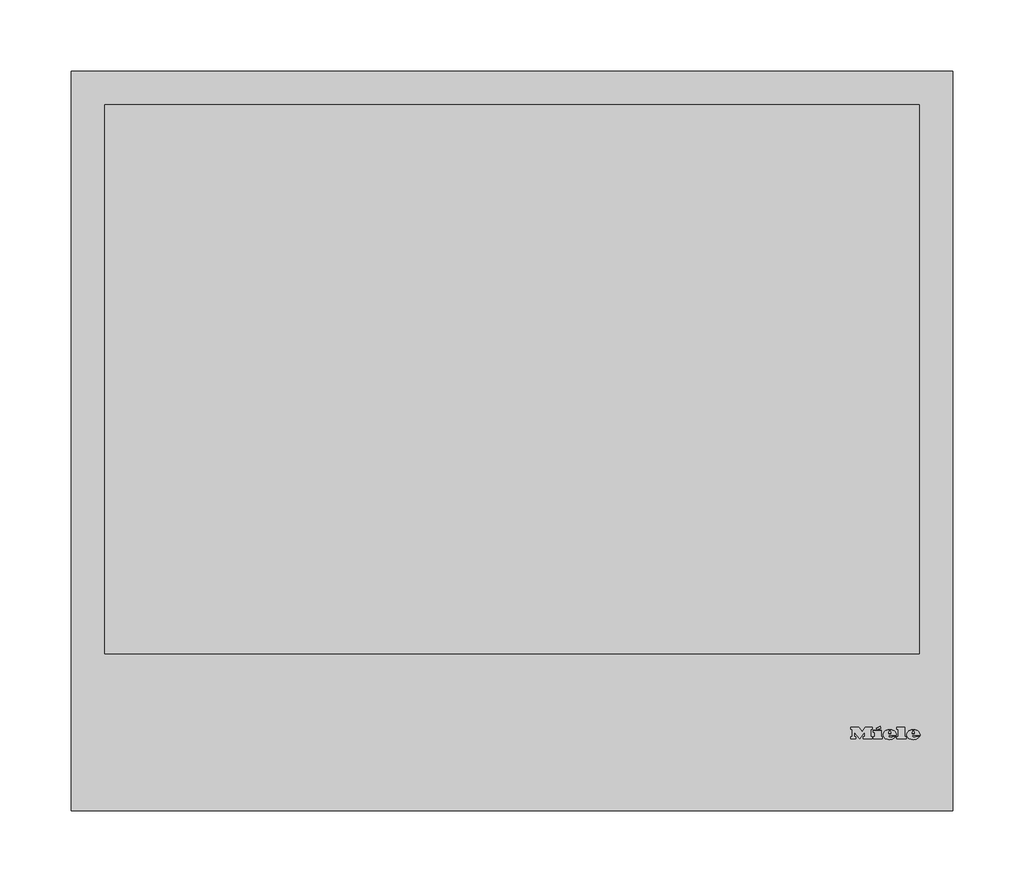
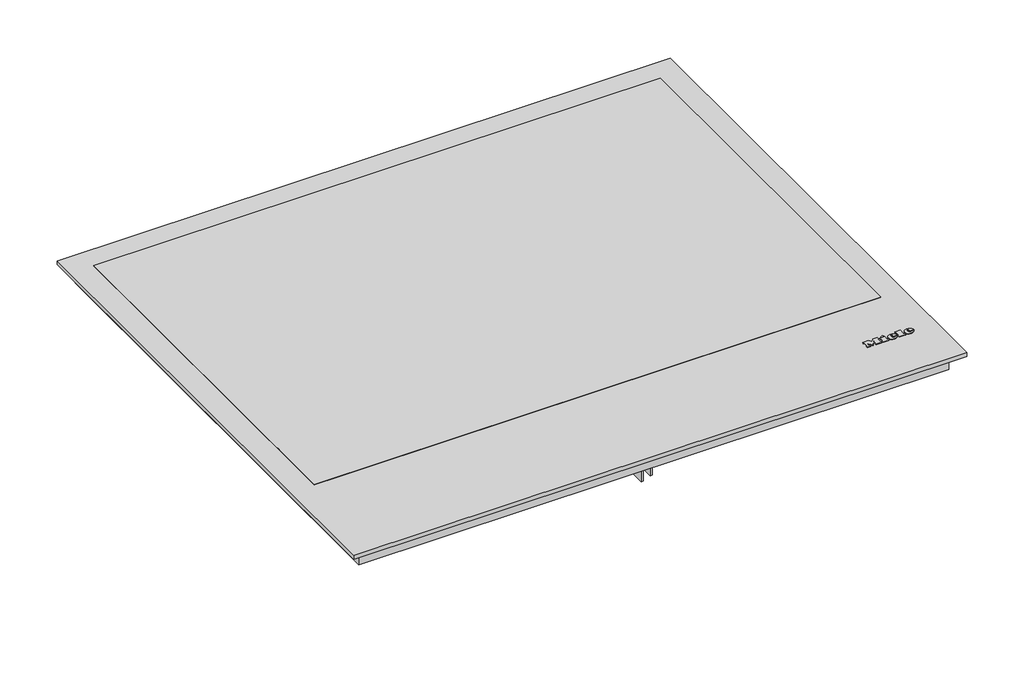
# Not in any storey: 1 proxy.
"""IFC4 building model written with IfcOpenShell, lengths in millimetres."""

import ifcopenshell
import ifcopenshell.guid

model = None  # the IFC model being written
_history = None  # IfcOwnerHistory: only IFC2X3 demands one
_inside = {}  # id of a spatial element -> (the spatial element, [elements in it])
_under = {}  # id of a project, library or spatial element -> (it, [spatial elements below it])
_declared = {}  # id of a project -> (the project, [libraries it declares])
_typed = {}  # id of a type object -> (the type object, [elements of that type])
_made_of = {}  # id of a material, layer set ... -> (it, [elements and type objects made of it])


def new_model(schema):
    """Start an empty IFC model of exactly this schema.

    Asked for "IFC4X3", IfcOpenShell would pick the latest addendum, in which some entities
    have other attributes; the version numbers below select the first issue.
    IFC2X3 requires an IfcOwnerHistory on every rooted entity: one is made here for all.
    """
    global model, _history
    if schema == "IFC4X3":
        model = ifcopenshell.file(schema_version=(4, 3, 0, 0))
    else:
        model = ifcopenshell.file(schema=schema)
    _inside.clear()
    _under.clear()
    _declared.clear()
    _typed.clear()
    _made_of.clear()
    _history = None
    if model.schema == "IFC2X3":
        org = make("IfcOrganization", Name="unknown")
        user = make(
            "IfcPersonAndOrganization",
            ThePerson=make("IfcPerson", FamilyName="unknown"),
            TheOrganization=org,
        )
        app = make(
            "IfcApplication",
            ApplicationDeveloper=org,
            Version="unknown",
            ApplicationFullName="unknown",
            ApplicationIdentifier="unknown",
        )
        _history = make(
            "IfcOwnerHistory",
            OwningUser=user,
            OwningApplication=app,
            ChangeAction="ADDED",
            CreationDate=0,
        )
    return model


def make(cls, **values):
    """One entity of the class cls with the attributes given. An attribute that is None is left unset."""
    return model.create_entity(
        cls, **{name: value for name, value in values.items() if value is not None}
    )


def rooted(cls, **values):
    """An entity with a GlobalId (a new one), such as an element, a storey or a relation."""
    return make(cls, GlobalId=ifcopenshell.guid.new(), OwnerHistory=_history, **values)


def si_unit(unit_type, name, prefix=None):
    """IfcSIUnit, for example si_unit("LENGTHUNIT", "METRE", prefix="MILLI")."""
    return make("IfcSIUnit", UnitType=unit_type, Prefix=prefix, Name=name)


def assignment(units):
    """IfcUnitAssignment: the units of a project."""
    return None if units is None else make("IfcUnitAssignment", Units=units)


def point(xyz):
    """IfcCartesianPoint."""
    return None if xyz is None else make("IfcCartesianPoint", Coordinates=xyz)


def direction(xyz):
    """IfcDirection."""
    return None if xyz is None else make("IfcDirection", DirectionRatios=xyz)


def frame(location, z_axis=None, x_axis=None):
    """IfcAxis2Placement3D, a coordinate frame: its origin and axes. An axis left out is left unset."""
    return make(
        "IfcAxis2Placement3D",
        Location=point(location),
        Axis=direction(z_axis),
        RefDirection=direction(x_axis),
    )


def frame_2d(location, x_axis=None):
    """IfcAxis2Placement2D, a coordinate frame in the plane: its origin and x axis."""
    return make(
        "IfcAxis2Placement2D", Location=point(location), RefDirection=direction(x_axis)
    )


def origin():
    """The frame at (0, 0, 0) with its axes left unset."""
    return frame((0.0, 0.0, 0.0))


def origin_with_axes():
    """The frame at (0, 0, 0) with the z axis (0, 0, 1) and the x axis (1, 0, 0) written out."""
    return frame((0.0, 0.0, 0.0), z_axis=(0.0, 0.0, 1.0), x_axis=(1.0, 0.0, 0.0))


def place(relative_to, where):
    """IfcLocalPlacement: puts the frame where relative to a parent placement (None: the world)."""
    return make(
        "IfcLocalPlacement", PlacementRelTo=relative_to, RelativePlacement=where
    )


def context(
    kind, dimensions, precision=None, world=None, true_north=None, identifier=None
):
    """IfcGeometricRepresentationContext, for example the 3D "Model" context."""
    return make(
        "IfcGeometricRepresentationContext",
        ContextIdentifier=identifier,
        ContextType=kind,
        CoordinateSpaceDimension=dimensions,
        Precision=precision,
        WorldCoordinateSystem=world,
        TrueNorth=true_north,
    )


def project(units=None, contexts=None):
    """IfcProject with its units and contexts."""
    return rooted(
        "IfcProject",
        Name="project",
        RepresentationContexts=contexts,
        UnitsInContext=assignment(units),
    )


def spatial(cls, under=None, at=None, **own):
    """A site, building, storey or space (cls), placed at a placement, below another one or the project."""
    s = rooted(cls, ObjectPlacement=at, **own)
    if under is not None:
        _under.setdefault(under.id(), (under, []))[1].append(s)
    return s


def polyline(points):
    """IfcPolyline through the points."""
    return make("IfcPolyline", Points=[point(p) for p in points])


def circle_curve(where, radius):
    """IfcCircle in the frame where."""
    return make("IfcCircle", Position=where, Radius=radius)


def ellipse_curve(where, semi_axis1, semi_axis2):
    """IfcEllipse in the frame where."""
    return make(
        "IfcEllipse", Position=where, SemiAxis1=semi_axis1, SemiAxis2=semi_axis2
    )


def trimmed(basis, trim1, trim2, sense, master):
    """IfcTrimmedCurve: the piece of a basis curve between two trims."""
    return make(
        "IfcTrimmedCurve",
        BasisCurve=basis,
        Trim1=trim1,
        Trim2=trim2,
        SenseAgreement=sense,
        MasterRepresentation=master,
    )


def segment(curve, same_sense, transition):
    """IfcCompositeCurveSegment."""
    return make(
        "IfcCompositeCurveSegment",
        Transition=transition,
        SameSense=same_sense,
        ParentCurve=curve,
    )


def composite_curve(segments, self_intersect=None):
    """IfcCompositeCurve: segments joined end to end."""
    return make("IfcCompositeCurve", Segments=segments, SelfIntersect=self_intersect)


def outline(outer, holes=None, kind="AREA"):
    """IfcArbitraryClosedProfileDef: a profile drawn as a closed curve; with holes, ...WithVoids."""
    if holes is None:
        return make("IfcArbitraryClosedProfileDef", ProfileType=kind, OuterCurve=outer)
    return make(
        "IfcArbitraryProfileDefWithVoids",
        ProfileType=kind,
        OuterCurve=outer,
        InnerCurves=holes,
    )


def extrude(swept, where, along, depth):
    """IfcExtrudedAreaSolid: the profile swept, set in the frame where, extruded along a direction by depth."""
    return make(
        "IfcExtrudedAreaSolid",
        SweptArea=swept,
        Position=where,
        ExtrudedDirection=direction(along),
        Depth=depth,
    )


def shape(context_of_items, identifier, shape_type, items):
    """IfcShapeRepresentation: the items that make up one representation, for example the "Body"."""
    return make(
        "IfcShapeRepresentation",
        ContextOfItems=context_of_items,
        RepresentationIdentifier=identifier,
        RepresentationType=shape_type,
        Items=items,
    )


def source(mapping_origin, context_of_items, identifier, shape_type, items):
    """IfcRepresentationMap: a shape defined once, which mapped items show again and again."""
    return make(
        "IfcRepresentationMap",
        MappingOrigin=mapping_origin,
        MappedRepresentation=shape(context_of_items, identifier, shape_type, items),
    )


def transform(
    local_origin,
    x_axis=None,
    y_axis=None,
    z_axis=None,
    scale=None,
    scale2=None,
    scale3=None,
    uniform=True,
):
    """IfcCartesianTransformationOperator3D, or its non-uniform kind. x_axis, y_axis, z_axis: its Axis1, 2, 3."""
    if uniform:
        return make(
            "IfcCartesianTransformationOperator3D",
            Axis1=direction(x_axis),
            Axis2=direction(y_axis),
            LocalOrigin=point(local_origin),
            Scale=scale,
            Axis3=direction(z_axis),
        )
    return make(
        "IfcCartesianTransformationOperator3DnonUniform",
        Axis1=direction(x_axis),
        Axis2=direction(y_axis),
        LocalOrigin=point(local_origin),
        Scale=scale,
        Axis3=direction(z_axis),
        Scale2=scale2,
        Scale3=scale3,
    )


def mapped(mapping_source, mapping_target):
    """IfcMappedItem: shows the shape of a source again, moved by a transform."""
    return make(
        "IfcMappedItem", MappingSource=mapping_source, MappingTarget=mapping_target
    )


def made_of(thing, what):
    """Note that an element or type object is made of a material, layer set ...; save() writes the relation."""
    if what is not None:
        _made_of.setdefault(what.id(), (what, []))[1].append(thing)
    return thing


def element(
    cls,
    number,
    at=None,
    inside=None,
    cuts=None,
    type_object=None,
    material=None,
    context=None,
    identifier="Body",
    shape_type=None,
    held_by="IfcProductDefinitionShape",
    body=None,
    shapes=None,
    **own,
):
    """One element of the class cls, such as IfcWall. Its Tag is "e" and its number.

    at: its placement. inside: the storey or other place that contains it. cuts: it is an
    opening in that element (IfcRelVoidsElement). A single representation is given by context,
    identifier, shape_type and body (its items); several are given by shapes. held_by: the class
    of the entity that holds the representations. save() writes the other relations.
    """
    e = rooted(cls, Tag="e%d" % number, ObjectPlacement=at, **own)
    if body is not None:
        shapes = [shape(context, identifier, shape_type, body)]
    if shapes is not None:
        e.Representation = make(held_by, Representations=shapes)
    if inside is not None:
        _inside.setdefault(inside.id(), (inside, []))[1].append(e)
    if cuts is not None:
        rooted(
            "IfcRelVoidsElement", RelatingBuildingElement=cuts, RelatedOpeningElement=e
        )
    if type_object is not None:
        _typed.setdefault(type_object.id(), (type_object, []))[1].append(e)
    return made_of(e, material)


def aggregate(whole, parts):
    """IfcRelAggregates: a whole, such as a stair, and the parts it consists of."""
    return rooted("IfcRelAggregates", RelatingObject=whole, RelatedObjects=parts)


def save(model, path):
    """Write the relations noted so far, then the file.

    IfcRelAggregates (storeys below a building ...), IfcRelContainedInSpatialStructure (elements
    in a storey), IfcRelDefinesByType, IfcRelAssociatesMaterial and IfcRelDeclares: one each for
    every whole, place, type object, material and project.
    """
    for whole, parts in _under.values():
        aggregate(whole, parts)
    for where, things in _inside.values():
        rooted(
            "IfcRelContainedInSpatialStructure",
            RelatedElements=things,
            RelatingStructure=where,
        )
    for kind, things in _typed.values():
        rooted("IfcRelDefinesByType", RelatedObjects=things, RelatingType=kind)
    for what, things in _made_of.values():
        rooted("IfcRelAssociatesMaterial", RelatedObjects=things, RelatingMaterial=what)
    for by, libraries in _declared.values():
        rooted("IfcRelDeclares", RelatingContext=by, RelatedDefinitions=libraries)
    model.write(path)


def plane_surface(at):
    """IfcPlane: the flat surface through the origin of the frame at, square to its z axis."""
    return make("IfcPlane", Position=at)


def cylinder_surface(at, radius):
    """IfcCylindricalSurface: all points at the distance radius from the z axis of the frame at."""
    return make("IfcCylindricalSurface", Position=at, Radius=radius)


def revolved_surface(curve, axis_point, axis_direction):
    """IfcSurfaceOfRevolution: the curve turned about the line through axis_point along axis_direction."""
    return make(
        "IfcSurfaceOfRevolution",
        SweptCurve=make("IfcArbitraryOpenProfileDef", ProfileType="CURVE", Curve=curve),
        AxisPosition=make("IfcAxis1Placement", Location=point(axis_point), Axis=direction(axis_direction)),
    )


def extruded_surface(curve, direction_of_extrusion, depth):
    """IfcSurfaceOfLinearExtrusion: the curve pushed along a direction by depth."""
    return make(
        "IfcSurfaceOfLinearExtrusion",
        SweptCurve=make("IfcArbitraryOpenProfileDef", ProfileType="CURVE", Curve=curve),
        ExtrudedDirection=direction(direction_of_extrusion),
        Depth=depth,
    )


def advanced_brep(points, edges, surfaces, faces):
    """IfcAdvancedBrep: a solid bounded by faces that lie on surfaces and meet in shared edges.

    An edge is (start, end): straight between two places in points (the first is 0);
    or (start, end, curve); or (start, end, curve, False) where it runs against its curve.
    A face is (place in surfaces, loops), or (place, loops, False) where it looks against
    its surface's normal. A loop lists edges by number (the first is 1), with a minus sign
    where the edge is run from its end to its start. The first loop is the outer one.
    """
    corners = [point(p) for p in points]
    vertices = [make("IfcVertexPoint", VertexGeometry=c) for c in corners]
    made = []
    for start, end, *more in edges:
        made.append(
            make(
                "IfcEdgeCurve",
                EdgeStart=vertices[start],
                EdgeEnd=vertices[end],
                EdgeGeometry=more[0] if more else make("IfcPolyline", Points=[corners[start], corners[end]]),
                SameSense=more[1] if len(more) > 1 else True,
            )
        )
    hull = []
    for where, loops, *sense in faces:
        bounds = []
        for j, loop in enumerate(loops):
            ring = [make("IfcOrientedEdge", EdgeElement=made[abs(k) - 1], Orientation=k > 0) for k in loop]
            bounds.append(
                make(
                    "IfcFaceOuterBound" if j == 0 else "IfcFaceBound",
                    Bound=make("IfcEdgeLoop", EdgeList=ring),
                    Orientation=True,
                )
            )
        hull.append(make("IfcAdvancedFace", Bounds=bounds, FaceSurface=surfaces[where], SameSense=sense[0] if sense else True))
    return make("IfcAdvancedBrep", Outer=make("IfcClosedShell", CfsFaces=hull))


def specialty_equipment_dca31267(model_context):
    return source(origin(), model_context, "Body", "SolidModel", [
        advanced_brep(
        [(281.56, 52.3948833, 4.4802537), (281.56, 53.2028828, 4.4811551), (286.912, 53.2028828, 4.4811551), (277.6, 53.2028828, 4.4811551), (279.8, 50.4988845, 4.4781386), (286.776, 52.3948833, 4.4802537), (284.36, 52.3948833, 4.4802537), (282.456, 51.4988838, 4.4792542), (281.56, 54.2268821, 4.4822974), (281.56, 55.0988816, 4.4832701), (282.928, 55.0988816, 4.4832701), (282.928, 54.2268821, 4.4822974), (281.56, 52.3959988, 3.4802543), (282.456, 51.4999994, 3.4792548), (284.36, 52.3959988, 3.4802543), (286.776, 52.3959988, 3.4802543), (279.8, 50.5, 3.4781393), (277.6, 53.2039983, 3.4811557), (286.912, 53.2039983, 3.4811557), (281.56, 53.2039983, 3.4811557), (281.56, 54.2279977, 3.482298), (282.928, 54.2279977, 3.482298), (282.928, 55.0999971, 3.4832707), (281.56, 55.0999971, 3.4832707)],
        [
            (0, 1),
            (1, 2),
            (2, 3, ellipse_curve(frame((282.256, 53.2028828, 4.4811551), z_axis=(0.0, -0.0011155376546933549, 0.9999993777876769), x_axis=(-1.0, 0.0, 0.0)), 4.656, 3.848)),
            (3, 4, circle_curve(frame((280.6960436, 53.4748826, 4.4814585), z_axis=(0.0, -0.0011155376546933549, 0.9999993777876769), x_axis=(0.0, -0.9999993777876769, -0.0011155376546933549)), 3.1079688)),
            (4, 5, circle_curve(frame((282.1627936, 55.5868813, 4.4838145), z_axis=(0.0, -0.0011155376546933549, 0.9999993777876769), x_axis=(0.0, -0.9999993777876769, -0.0011155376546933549)), 5.6098607)),
            (5, 6),
            (6, 7, circle_curve(frame((282.8470588, 53.1388828, 4.4810837), z_axis=(0.0, 0.0011155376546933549, -0.9999993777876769), x_axis=(0.0, -0.9999993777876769, -0.0011155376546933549)), 1.6859795)),
            (7, 0, circle_curve(frame((282.456, 52.3948833, 4.4802537), z_axis=(0.0, 0.0011155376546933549, -0.9999993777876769), x_axis=(0.0, -0.9999993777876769, -0.0011155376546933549)), 0.896)),
            (8, 9),
            (9, 10, circle_curve(frame((282.244, 55.0988816, 4.4832701), z_axis=(0.0, 0.0011155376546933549, -0.9999993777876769), x_axis=(0.0, -0.9999993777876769, -0.0011155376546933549)), 0.684)),
            (10, 11),
            (11, 8),
            (12, 13, circle_curve(frame((282.456, 52.3959988, 3.4802543), z_axis=(0.0, -0.0011155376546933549, 0.9999993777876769), x_axis=(0.0, -0.9999993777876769, -0.0011155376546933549)), 0.896)),
            (13, 14, circle_curve(frame((282.8470588, 53.1399984, 3.4810843), z_axis=(0.0, -0.0011155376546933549, 0.9999993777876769), x_axis=(0.0, -0.9999993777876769, -0.0011155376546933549)), 1.6859795)),
            (14, 15),
            (15, 16, circle_curve(frame((282.1627936, 55.5879968, 3.4838151), z_axis=(0.0, 0.0011155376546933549, -0.9999993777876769), x_axis=(0.0, -0.9999993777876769, -0.0011155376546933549)), 5.6098607)),
            (16, 17, circle_curve(frame((280.6960436, 53.4759981, 3.4814591), z_axis=(0.0, 0.0011155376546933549, -0.9999993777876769), x_axis=(0.0, -0.9999993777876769, -0.0011155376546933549)), 3.1079688)),
            (17, 18, ellipse_curve(frame((282.256, 53.2039983, 3.4811557), z_axis=(0.0, 0.0011155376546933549, -0.9999993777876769), x_axis=(-1.0, 0.0, 0.0)), 4.656, 3.848)),
            (18, 19),
            (19, 12),
            (20, 21),
            (21, 22),
            (22, 23, circle_curve(frame((282.244, 55.0999971, 3.4832707), z_axis=(0.0, -0.0011155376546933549, 0.9999993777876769), x_axis=(0.0, -0.9999993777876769, -0.0011155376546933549)), 0.684)),
            (23, 20),
            (0, 12),
            (19, 1),
            (18, 2),
            (5, 15),
            (14, 6),
            (17, 3),
            (13, 7),
            (16, 4),
            (8, 20),
            (23, 9),
            (22, 10),
            (21, 11),
        ],
        [
            plane_surface(frame((281.56, 53.2028828, 4.4811551), z_axis=(0.0, -0.0011155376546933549, 0.9999993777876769), x_axis=(0.0, 0.9999993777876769, 0.0011155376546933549))),
            plane_surface(frame((281.56, 53.2039983, 3.4811557), z_axis=(0.0, 0.0011155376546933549, -0.9999993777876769), x_axis=(0.0, -0.9999993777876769, -0.0011155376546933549))),
            plane_surface(frame((281.56, 52.3948833, 4.4802537), z_axis=(1.0000000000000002, 0.0, 0.0), x_axis=(0.0, 0.001115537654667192, -0.999999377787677))),
            plane_surface(frame((281.56, 53.2028828, 4.4811551), z_axis=(0.0, -0.999999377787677, -0.001115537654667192), x_axis=(0.0, 0.001115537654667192, -0.999999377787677))),
            plane_surface(frame((286.776, 52.3948833, 4.4802537), z_axis=(0.0, 0.999999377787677, 0.001115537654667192), x_axis=(0.0, 0.001115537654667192, -0.999999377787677))),
            extruded_surface(trimmed(ellipse_curve(frame((282.256, 53.2051139, 2.4811563), z_axis=(0.0, -0.0011155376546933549, 0.9999993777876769), x_axis=(-1.0, 0.0, 0.0)), 4.656, 3.848), [point((286.912, 53.2051139, 2.4811563))], [point((277.6, 53.2051139, 2.4811563))], True, "CARTESIAN"), (0.0, -0.001115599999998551, 0.9999994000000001), 1.00000002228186),
            revolved_surface(polyline([(282.8470588, 51.454019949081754, 3.479203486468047), (282.8470588, 51.45290441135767, 4.4792029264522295)]), (282.8470588, 53.1399984, 3.4810843), (0.0, 0.0011155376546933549, -0.9999993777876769)),
            revolved_surface(polyline([(282.456, 51.49999935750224, 3.4792547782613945), (282.456, 51.49888381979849, 4.479254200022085)]), (282.456, 52.3959988, 3.4802543), (0.0, 0.0011155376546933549, -0.9999993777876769)),
            cylinder_surface(frame((280.6960436, 53.4759981, 3.4814591), z_axis=(0.0, -0.0011155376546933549, 0.9999993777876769), x_axis=(0.0, -0.9999993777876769, -0.0011155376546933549)), 3.1079688),
            cylinder_surface(frame((282.1627936, 55.5879968, 3.4838151), z_axis=(0.0, -0.0011155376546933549, 0.9999993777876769), x_axis=(0.0, -0.9999993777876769, -0.0011155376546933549)), 5.6098607),
            plane_surface(frame((281.56, 54.2268821, 4.4822974), z_axis=(1.0000000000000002, 0.0, 0.0), x_axis=(0.0, 0.001115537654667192, -0.999999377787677))),
            revolved_surface(polyline([(282.244, 54.415997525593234, 3.4825076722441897), (282.244, 54.41488198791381, 4.482507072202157)]), (282.244, 55.0999971, 3.4832707), (0.0, 0.0011155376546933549, -0.9999993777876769)),
            plane_surface(frame((282.928, 55.0988816, 4.4832701), z_axis=(-1.0000000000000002, 0.0, 0.0), x_axis=(0.0, 0.001115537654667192, -0.999999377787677))),
            plane_surface(frame((282.928, 54.2268821, 4.4822974), z_axis=(0.0, 0.999999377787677, 0.001115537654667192), x_axis=(0.0, 0.001115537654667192, -0.999999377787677))),
        ],
        [
            (0, [[1, 2, 3, 4, 5, 6, 7, 8], [9, 10, 11, 12]]),
            (1, [[13, 14, 15, 16, 17, 18, 19, 20], [21, 22, 23, 24]]),
            (2, [[-1, 25, -20, 26]]),
            (3, [[-2, -26, -19, 27]]),
            (4, [[-6, 28, -15, 29]]),
            (5, [[-3, -27, -18, 30]]),
            (6, [[-7, -29, -14, 31]]),
            (7, [[-8, -31, -13, -25]]),
            (8, [[-4, -30, -17, 32]]),
            (9, [[-5, -32, -16, -28]]),
            (10, [[-9, 33, -24, 34]]),
            (11, [[-10, -34, -23, 35]]),
            (12, [[-11, -35, -22, 36]]),
            (13, [[-12, -36, -21, -33]]),
        ],
    ),
        advanced_brep(
        [(264.864, 52.3948833, 4.4802537), (264.864, 53.2028828, 4.4811551), (270.216, 53.2028828, 4.4811551), (260.904, 53.2028828, 4.4811551), (263.104, 50.4988845, 4.4781386), (270.08, 52.3948833, 4.4802537), (267.664, 52.3948833, 4.4802537), (265.76, 51.4988838, 4.4792542), (264.864, 54.2268821, 4.4822974), (264.864, 55.0988816, 4.4832701), (266.232, 55.0988816, 4.4832701), (266.232, 54.2268821, 4.4822974), (264.864, 52.3959988, 3.4802543), (265.76, 51.4999994, 3.4792548), (267.664, 52.3959988, 3.4802543), (270.08, 52.3959988, 3.4802543), (263.104, 50.5, 3.4781393), (260.904, 53.2039983, 3.4811557), (270.216, 53.2039983, 3.4811557), (264.864, 53.2039983, 3.4811557), (264.864, 54.2279977, 3.482298), (266.232, 54.2279977, 3.482298), (266.232, 55.0999971, 3.4832707), (264.864, 55.0999971, 3.4832707)],
        [
            (0, 1),
            (1, 2),
            (2, 3, ellipse_curve(frame((265.56, 53.2028828, 4.4811551), z_axis=(0.0, -0.0011155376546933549, 0.9999993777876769), x_axis=(-1.0, 0.0, 0.0)), 4.656, 3.848)),
            (3, 4, circle_curve(frame((264.0000436, 53.4748826, 4.4814585), z_axis=(0.0, -0.0011155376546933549, 0.9999993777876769), x_axis=(0.0, -0.9999993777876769, -0.0011155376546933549)), 3.1079688)),
            (4, 5, circle_curve(frame((265.4667936, 55.5868813, 4.4838145), z_axis=(0.0, -0.0011155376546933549, 0.9999993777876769), x_axis=(0.0, -0.9999993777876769, -0.0011155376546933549)), 5.6098607)),
            (5, 6),
            (6, 7, circle_curve(frame((266.1510588, 53.1388828, 4.4810837), z_axis=(0.0, 0.0011155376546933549, -0.9999993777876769), x_axis=(0.0, -0.9999993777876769, -0.0011155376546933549)), 1.6859795)),
            (7, 0, circle_curve(frame((265.76, 52.3948833, 4.4802537), z_axis=(0.0, 0.0011155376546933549, -0.9999993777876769), x_axis=(0.0, -0.9999993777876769, -0.0011155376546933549)), 0.896)),
            (8, 9),
            (9, 10, circle_curve(frame((265.548, 55.0988816, 4.4832701), z_axis=(0.0, 0.0011155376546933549, -0.9999993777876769), x_axis=(0.0, -0.9999993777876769, -0.0011155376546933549)), 0.684)),
            (10, 11),
            (11, 8),
            (12, 13, circle_curve(frame((265.76, 52.3959988, 3.4802543), z_axis=(0.0, -0.0011155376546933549, 0.9999993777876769), x_axis=(0.0, -0.9999993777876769, -0.0011155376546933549)), 0.896)),
            (13, 14, circle_curve(frame((266.1510588, 53.1399984, 3.4810843), z_axis=(0.0, -0.0011155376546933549, 0.9999993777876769), x_axis=(0.0, -0.9999993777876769, -0.0011155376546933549)), 1.6859795)),
            (14, 15),
            (15, 16, circle_curve(frame((265.4667936, 55.5879968, 3.4838151), z_axis=(0.0, 0.0011155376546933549, -0.9999993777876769), x_axis=(0.0, -0.9999993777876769, -0.0011155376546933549)), 5.6098607)),
            (16, 17, circle_curve(frame((264.0000436, 53.4759981, 3.4814591), z_axis=(0.0, 0.0011155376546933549, -0.9999993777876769), x_axis=(0.0, -0.9999993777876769, -0.0011155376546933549)), 3.1079688)),
            (17, 18, ellipse_curve(frame((265.56, 53.2039983, 3.4811557), z_axis=(0.0, 0.0011155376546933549, -0.9999993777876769), x_axis=(-1.0, 0.0, 0.0)), 4.656, 3.848)),
            (18, 19),
            (19, 12),
            (20, 21),
            (21, 22),
            (22, 23, circle_curve(frame((265.548, 55.0999971, 3.4832707), z_axis=(0.0, -0.0011155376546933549, 0.9999993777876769), x_axis=(0.0, -0.9999993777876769, -0.0011155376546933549)), 0.684)),
            (23, 20),
            (0, 12),
            (19, 1),
            (18, 2),
            (5, 15),
            (14, 6),
            (17, 3),
            (13, 7),
            (16, 4),
            (8, 20),
            (23, 9),
            (22, 10),
            (21, 11),
        ],
        [
            plane_surface(frame((264.864, 53.2028828, 4.4811551), z_axis=(0.0, -0.0011155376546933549, 0.9999993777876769), x_axis=(0.0, 0.9999993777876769, 0.0011155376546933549))),
            plane_surface(frame((264.864, 53.2039983, 3.4811557), z_axis=(0.0, 0.0011155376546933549, -0.9999993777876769), x_axis=(0.0, -0.9999993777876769, -0.0011155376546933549))),
            plane_surface(frame((264.864, 52.3948833, 4.4802537), z_axis=(1.0000000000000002, 0.0, 0.0), x_axis=(0.0, 0.001115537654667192, -0.999999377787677))),
            plane_surface(frame((264.864, 53.2028828, 4.4811551), z_axis=(0.0, -0.999999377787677, -0.001115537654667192), x_axis=(0.0, 0.001115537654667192, -0.999999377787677))),
            plane_surface(frame((270.08, 52.3948833, 4.4802537), z_axis=(0.0, 0.999999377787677, 0.001115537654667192), x_axis=(0.0, 0.001115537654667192, -0.999999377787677))),
            extruded_surface(trimmed(ellipse_curve(frame((265.56, 53.2051139, 2.4811563), z_axis=(0.0, -0.0011155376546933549, 0.9999993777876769), x_axis=(-1.0, 0.0, 0.0)), 4.656, 3.848), [point((270.216, 53.2051139, 2.4811563))], [point((260.904, 53.2051139, 2.4811563))], True, "CARTESIAN"), (0.0, -0.001115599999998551, 0.9999994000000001), 1.00000002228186),
            revolved_surface(polyline([(266.1510588, 51.454019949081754, 3.479203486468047), (266.1510588, 51.45290441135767, 4.4792029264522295)]), (266.1510588, 53.1399984, 3.4810843), (0.0, 0.0011155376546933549, -0.9999993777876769)),
            revolved_surface(polyline([(265.76, 51.49999935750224, 3.4792547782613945), (265.76, 51.49888381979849, 4.479254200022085)]), (265.76, 52.3959988, 3.4802543), (0.0, 0.0011155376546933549, -0.9999993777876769)),
            cylinder_surface(frame((264.0000436, 53.4759981, 3.4814591), z_axis=(0.0, -0.0011155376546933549, 0.9999993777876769), x_axis=(0.0, -0.9999993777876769, -0.0011155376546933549)), 3.1079688),
            cylinder_surface(frame((265.4667936, 55.5879968, 3.4838151), z_axis=(0.0, -0.0011155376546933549, 0.9999993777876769), x_axis=(0.0, -0.9999993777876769, -0.0011155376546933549)), 5.6098607),
            plane_surface(frame((264.864, 54.2268821, 4.4822974), z_axis=(1.0000000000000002, 0.0, 0.0), x_axis=(0.0, 0.001115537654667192, -0.999999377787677))),
            revolved_surface(polyline([(265.548, 54.415997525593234, 3.4825076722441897), (265.548, 54.41488198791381, 4.482507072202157)]), (265.548, 55.0999971, 3.4832707), (0.0, 0.0011155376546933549, -0.9999993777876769)),
            plane_surface(frame((266.232, 55.0988816, 4.4832701), z_axis=(-1.0000000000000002, 0.0, 0.0), x_axis=(0.0, 0.001115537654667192, -0.999999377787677))),
            plane_surface(frame((266.232, 54.2268821, 4.4822974), z_axis=(0.0, 0.999999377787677, 0.001115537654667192), x_axis=(0.0, 0.001115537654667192, -0.999999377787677))),
        ],
        [
            (0, [[1, 2, 3, 4, 5, 6, 7, 8], [9, 10, 11, 12]]),
            (1, [[13, 14, 15, 16, 17, 18, 19, 20], [21, 22, 23, 24]]),
            (2, [[-1, 25, -20, 26]]),
            (3, [[-2, -26, -19, 27]]),
            (4, [[-6, 28, -15, 29]]),
            (5, [[-3, -27, -18, 30]]),
            (6, [[-7, -29, -14, 31]]),
            (7, [[-8, -31, -13, -25]]),
            (8, [[-4, -30, -17, 32]]),
            (9, [[-5, -32, -16, -28]]),
            (10, [[-9, 33, -24, 34]]),
            (11, [[-10, -34, -23, 35]]),
            (12, [[-11, -35, -22, 36]]),
            (13, [[-12, -36, -21, -33]]),
        ],
    ),
        extrude(outline(polyline([(0.0, 0.0), (-0.0109086, -2.9993294), (-1.4390415, -2.9920868), (-1.4315307, 0.0), (0.0, 0.0)])), frame((256.12, 58.0279953, 3.486537), z_axis=(0.0, -0.001115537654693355, 0.999999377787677), x_axis=(-0.4247202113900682, 0.9053240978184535, 0.0010099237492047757)), (0.0, 0.0, 1.0), 1.0),
        extrude(outline(polyline([(-0.4933908, 2.4141097), (-2.7800844, -2.4601583), (-7.0459741, -0.4588767), (-7.4401145, -1.299018), (-8.6568709, -0.728194), (-5.9760369, 4.9862153), (-4.7592805, 4.4153913), (-5.1636142, 3.5535222), (-2.1941493, 2.1604399), (-1.7898157, 3.022309), (-0.4933908, 2.4141097)])), frame((256.12, 58.0279953, 3.486537), z_axis=(0.0, -0.001115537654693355, 0.999999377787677), x_axis=(-0.4247202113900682, 0.9053240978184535, 0.0010099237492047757)), (0.0, 0.0, 1.0), 1.0),
        extrude(outline(polyline([(0.0, 0.0), (0.0, -1.304), (-5.504, -1.304), (-5.504, 5.3519999), (-6.488, 5.3519999), (-6.488, 6.696), (0.0, 6.696), (0.0, 5.3519999), (-0.96, 5.3519999), (-0.96, 0.0), (0.0, 0.0)])), frame((270.664, 57.1959958, 3.4856089), z_axis=(0.0, -0.0011155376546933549, 0.9999993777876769), x_axis=(-1.0, 0.0, 0.0)), (0.0, 0.0, 1.0), 1.0),
        extrude(outline(polyline([(0.0, 0.0), (0.0, -1.304), (-5.576, -1.304), (-7.92, 1.696), (-10.256, -1.304), (-15.128, -1.304), (-15.128, 0.0), (-14.112, 0.0), (-14.112, 5.3519999), (-15.128, 5.3519999), (-15.128, 6.696), (-8.744, 6.696), (-8.744, 5.3519999), (-9.728, 5.3519999), (-9.728, 1.8807777), (-6.136, 6.696), (-2.56, 1.9488752), (-2.56, 5.3519999), (-3.52, 5.3519999), (-3.52, 6.696), (0.0, 6.696), (0.0, 5.3519999), (-0.968, 5.3519999), (-0.968, 0.0), (0.0, 0.0)])), frame((238.2, 57.1959958, 3.4856089), z_axis=(0.0, -0.0011155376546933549, 0.9999993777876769), x_axis=(-1.0, 0.0, 0.0)), (0.0, 0.0, 1.0), 1.0),
        extrude(outline(polyline([(210.7772603, 464.0), (203.4, 464.0), (203.4, 465.2557039), (209.5215564, 465.2557039), (209.5215564, 468.5519266), (203.870889, 468.5519266), (203.870889, 469.8076304), (209.5215564, 469.8076304), (209.5215564, 472.7899271), (203.556963, 472.7899271), (203.556963, 474.045631), (210.7772603, 474.045631), (210.7772603, 464.0)])), frame((0.0, 0.0, -77.5), z_axis=(0.0, 0.0, 1.0), x_axis=(1.0, 0.0, 0.0)), (0.0, 0.0, 1.0), 1.0),
        extrude(outline(polyline([(201.5164442, 464.0), (195.2379248, 464.0), (195.2379248, 465.2557039), (200.2607403, 465.2557039), (200.2607403, 474.045631), (201.5164442, 474.045631), (201.5164442, 464.0)])), frame((0.0, 0.0, -77.5), z_axis=(0.0, 0.0, 1.0), x_axis=(1.0, 0.0, 0.0)), (0.0, 0.0, 1.0), 1.0),
        extrude(outline(polyline([(14.0, -27.0), (14.0, -16.8), (62.5, -16.8), (62.5, -43.0), (30.0, -43.0), (30.0, -27.0), (14.0, -27.0)])), frame((-2.0, 0.0, 0.0), z_axis=(1.0, 0.0, 0.0), x_axis=(0.0, 1.0, 0.0)), (0.0, 0.0, 1.0), 2.0),
        extrude(outline(polyline([(490.0, -27.0), (490.0, -43.0), (482.5, -43.0), (482.5, -16.8), (506.0, -16.8), (506.0, -27.0), (490.0, -27.0)])), frame((-2.0, 0.0, 0.0), z_axis=(1.0, 0.0, 0.0), x_axis=(0.0, 1.0, 0.0)), (0.0, 0.0, 1.0), 2.0),
        extrude(outline(polyline([(265.5, 482.5), (265.5, 62.5), (-265.5, 62.5), (-265.5, 482.5), (265.5, 482.5)])), frame((0.0, 0.0, -46.5), z_axis=(0.0, 0.0, 1.0), x_axis=(1.0, 0.0, 0.0)), (0.0, 0.0, 1.0), 29.7),
        extrude(outline(polyline([(310.0, 520.0), (310.0, 0.0), (-310.0, 0.0), (-310.0, 520.0), (310.0, 520.0)])), origin_with_axes(), (0.0, 0.0, 1.0), 4.0),
        extrude(outline(polyline([(298.5, 508.5), (298.5, 11.5), (-298.5, 11.5), (-298.5, 508.5), (298.5, 508.5)])), frame((0.0, 0.0, -16.8), z_axis=(0.0, 0.0, 1.0), x_axis=(1.0, 0.0, 0.0)), (0.0, 0.0, 1.0), 16.8),
        extrude(outline(composite_curve([segment(trimmed(circle_curve(frame_2d((203.4, 469.0)), 7.5), [point((203.4, 476.5))], [point((203.4, 461.5))], False, "CARTESIAN"), True, "CONTINUOUS"), segment(trimmed(circle_curve(frame_2d((203.4, 469.0)), 7.5), [point((203.4, 461.5))], [point((203.4, 476.5))], False, "CARTESIAN"), True, "CONTINUOUS")], self_intersect=False)), frame((0.0, 0.0, -76.5), z_axis=(0.0, 0.0, 1.0), x_axis=(1.0, 0.0, 0.0)), (0.0, 0.0, 1.0), 30.0),
        extrude(outline(polyline([(286.5, 496.5), (286.5, 110.5), (-286.5, 110.5), (-286.5, 496.5), (286.5, 496.5)])), frame((0.0, 0.0, 4.0), z_axis=(0.0, 0.0, 1.0), x_axis=(1.0, 0.0, 0.0)), (0.0, 0.0, 1.0), 1.0),
        extrude(outline(composite_curve([segment(trimmed(circle_curve(frame_2d((-291.0, 80.0)), 3.0), [point((-291.0, 83.0))], [point((-291.0, 77.0))], False, "CARTESIAN"), True, "CONTINUOUS"), segment(trimmed(circle_curve(frame_2d((-291.0, 80.0)), 3.0), [point((-291.0, 77.0))], [point((-291.0, 83.0))], False, "CARTESIAN"), True, "CONTINUOUS")], self_intersect=False)), frame((0.0, 0.0, -22.0), z_axis=(0.0, 0.0, 1.0), x_axis=(1.0, 0.0, 0.0)), (0.0, 0.0, 1.0), 5.2),
        extrude(outline(composite_curve([segment(trimmed(circle_curve(frame_2d((291.0, 440.0)), 3.0), [point((291.0, 443.0))], [point((291.0, 437.0))], False, "CARTESIAN"), True, "CONTINUOUS"), segment(trimmed(circle_curve(frame_2d((291.0, 440.0)), 3.0), [point((291.0, 437.0))], [point((291.0, 443.0))], False, "CARTESIAN"), True, "CONTINUOUS")], self_intersect=False)), frame((0.0, 0.0, -22.0), z_axis=(0.0, 0.0, 1.0), x_axis=(1.0, 0.0, 0.0)), (0.0, 0.0, 1.0), 5.2),
    ])


model = new_model("IFC4")

# Units and contexts
model_context = context("Model", 3, world=origin())
ifc_project = project(units=[si_unit("LENGTHUNIT", "METRE", prefix="MILLI")], contexts=[model_context])

# Site, building
site = spatial("IfcSite", under=ifc_project)
building = spatial("IfcBuilding", under=site)

# Proxy
placement = place(None, origin())
specialty_equipment_shape = specialty_equipment_dca31267(model_context)
element("IfcBuildingElementProxy", 1, Name="11120740_TR_KM7667FL : 26766770_TR_11120740_KM7667FL", ObjectType="11120740_TR_KM7667FL : 26766770_TR_11120740_KM7667FL", at=placement, inside=building, context=model_context, shape_type="MappedRepresentation", body=[
    mapped(specialty_equipment_shape, transform((0.0, 0.0, 0.0), x_axis=(1.0, 0.0, 0.0), y_axis=(0.0, 1.0, 0.0), z_axis=(0.0, 0.0, 1.0))),
])

save(model, "model.ifc")
